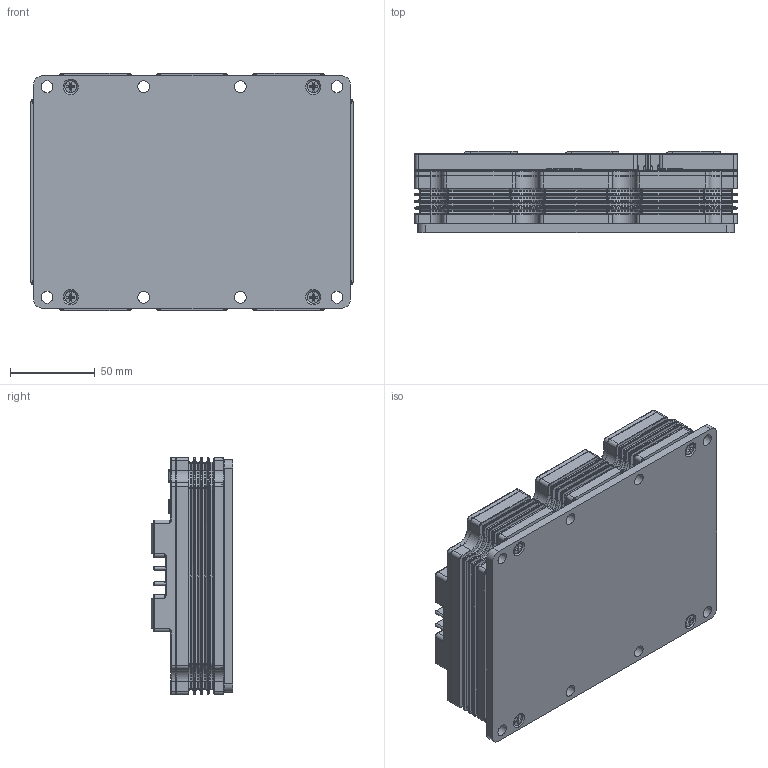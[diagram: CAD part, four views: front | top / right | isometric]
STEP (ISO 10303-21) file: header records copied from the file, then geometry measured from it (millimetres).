
FILE_DESCRIPTION (( 'STEP AP214' ), '1' );
FILE_NAME ('LD-ES-170634-MBN750FH65E2.STEP', '2017-08-25T04:14:07', ( 'Flora110' ), ( '' ), 'SwSTEP 2.0', 'SolidWorks 2010', '' );
FILE_SCHEMA (( 'AUTOMOTIVE_DESIGN' ));
Products named in the file (1): LD-ES-170634-MBN750FH65E2
Bounding box: 190 x 48 x 140 mm (x, y, z)
Volume: 961975.7 mm3; surface area: 176992.6 mm2
Topology: 1 solids, 13 shells, 3450 faces, 8025 edges, 4606 vertices
Faces by surface type: cylinder 1245, plane 1053, bspline 776, torus 376
Full cylindrical faces by diameter (mm): 1.25 x2, 1.5 x1, 2 x11, 3.1 x4, 3.3 x3, 3.5 x4, 4 x4, 4.5 x4, 6 x4, 6.4 x1, 7 x15, 8 x6, 9 x6, 13 x1, 13.016 x1, 17.5 x6, 18.5 x6
Entity records: 116955 total; most frequent: CARTESIAN_POINT 43473, ORIENTED_EDGE 15674, DIRECTION 14729, EDGE_CURVE 7837, AXIS2_PLACEMENT_3D 5509, VERTEX_POINT 4576, VECTOR 3711, LINE 3711
